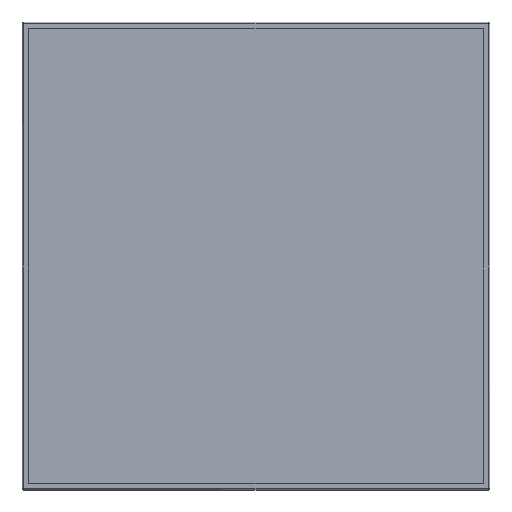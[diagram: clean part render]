
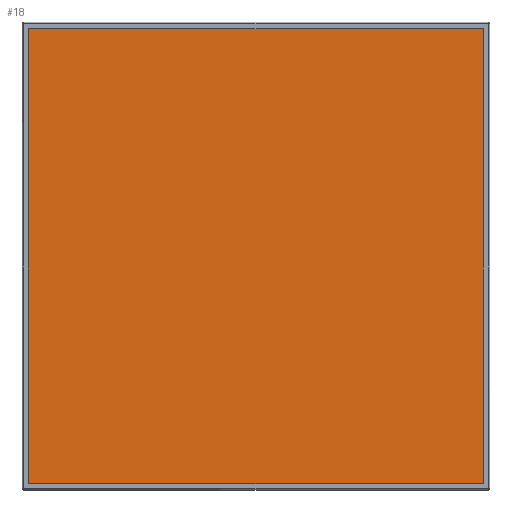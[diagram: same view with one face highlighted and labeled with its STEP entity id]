
A CAD part, top view. The second image highlights one B-rep face of the part: STEP entity #18.
In plain terms, the highlighted planar face has unit normal (0, 0, 1).
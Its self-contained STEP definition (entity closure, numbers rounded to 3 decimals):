
#18=ADVANCED_FACE('',(#50),#432,.T.);
#50=FACE_OUTER_BOUND('',#82,.T.);
#82=EDGE_LOOP('',(#119,#120,#121,#122));
#119=ORIENTED_EDGE('',*,*,#251,.T.);
#120=ORIENTED_EDGE('',*,*,#252,.T.);
#121=ORIENTED_EDGE('',*,*,#254,.T.);
#122=ORIENTED_EDGE('',*,*,#253,.T.);
#251=EDGE_CURVE('',#379,#380,#339,.T.);
#252=EDGE_CURVE('',#380,#381,#340,.T.);
#253=EDGE_CURVE('',#382,#379,#341,.T.);
#254=EDGE_CURVE('',#381,#382,#342,.T.);
#339=B_SPLINE_CURVE_WITH_KNOTS('',1,(#767,#768),.UNSPECIFIED.,.F.,.F.,(2,
2),(0.5,583.5),.UNSPECIFIED.);
#340=B_SPLINE_CURVE_WITH_KNOTS('',1,(#769,#770),.UNSPECIFIED.,.F.,.F.,(2,
2),(0.5,583.5),.UNSPECIFIED.);
#341=B_SPLINE_CURVE_WITH_KNOTS('',1,(#771,#772),.UNSPECIFIED.,.F.,.F.,(2,
2),(0.5,583.5),.UNSPECIFIED.);
#342=B_SPLINE_CURVE_WITH_KNOTS('',1,(#773,#774),.UNSPECIFIED.,.F.,.F.,(2,
2),(0.5,583.5),.UNSPECIFIED.);
#379=VERTEX_POINT('',#723);
#380=VERTEX_POINT('',#724);
#381=VERTEX_POINT('',#725);
#382=VERTEX_POINT('',#726);
#432=PLANE('',#460);
#460=AXIS2_PLACEMENT_3D('',#482,#471,$);
#471=DIRECTION('',(0.,0.,1.));
#482=CARTESIAN_POINT('',(-292.,-292.,29.));
#723=CARTESIAN_POINT('',(291.5,291.5,29.));
#724=CARTESIAN_POINT('',(-291.5,291.5,29.));
#725=CARTESIAN_POINT('',(-291.5,-291.5,29.));
#726=CARTESIAN_POINT('',(291.5,-291.5,29.));
#767=CARTESIAN_POINT('',(291.5,291.5,29.));
#768=CARTESIAN_POINT('',(-291.5,291.5,29.));
#769=CARTESIAN_POINT('',(-291.5,291.5,29.));
#770=CARTESIAN_POINT('',(-291.5,-291.5,29.));
#771=CARTESIAN_POINT('',(291.5,-291.5,29.));
#772=CARTESIAN_POINT('',(291.5,291.5,29.));
#773=CARTESIAN_POINT('',(-291.5,-291.5,29.));
#774=CARTESIAN_POINT('',(291.5,-291.5,29.));
